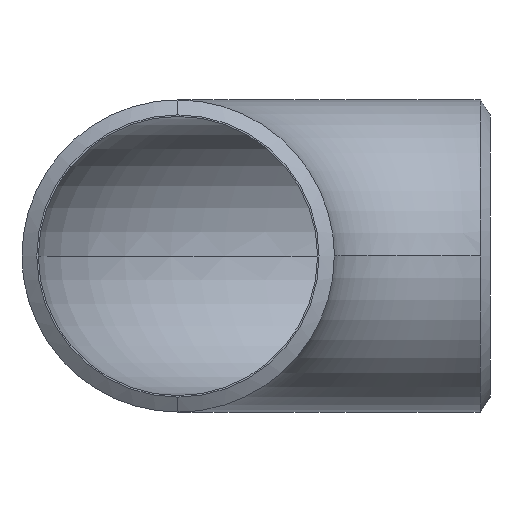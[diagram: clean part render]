
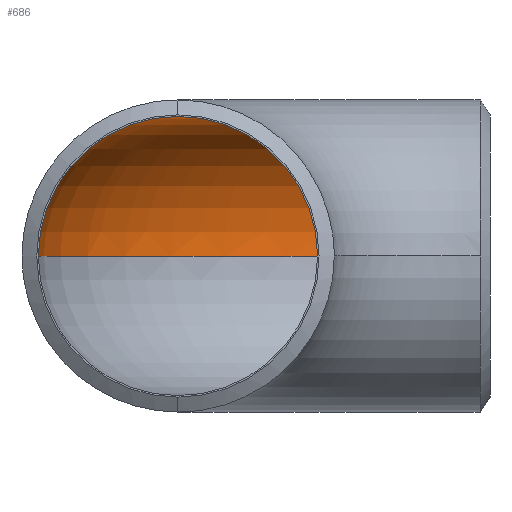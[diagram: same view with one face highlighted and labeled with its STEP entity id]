
A CAD part, front view. The second image highlights one B-rep face of the part: STEP entity #686.
In plain terms, the highlighted toroidal (fillet/blend) face has major radius 406.4 mm and minor radius 181.8 mm.
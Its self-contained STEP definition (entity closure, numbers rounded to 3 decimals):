
#32 = EDGE_CURVE ( 'NONE', #710, #707, #214, .T. ) ;
#34 = TOROIDAL_SURFACE ( 'NONE', #468, 406.4, 181.8 ) ;
#47 = ORIENTED_EDGE ( 'NONE', *, *, #210, .F. ) ;
#80 = DIRECTION ( 'NONE',  ( -1., 0., 0. ) ) ;
#84 = EDGE_CURVE ( 'NONE', #707, #153, #560, .T. ) ;
#86 = DIRECTION ( 'NONE',  ( 0., 0., -1. ) ) ;
#118 = CARTESIAN_POINT ( 'NONE',  ( 406.4, 406.4, 0. ) ) ;
#139 = CARTESIAN_POINT ( 'NONE',  ( 406.4, 224.6, 0. ) ) ;
#148 = CIRCLE ( 'NONE', #552, 224.6 ) ;
#153 = VERTEX_POINT ( 'NONE', #320 ) ;
#155 = AXIS2_PLACEMENT_3D ( 'NONE', #447, #235, #613 ) ;
#174 = CARTESIAN_POINT ( 'NONE',  ( -181.8, 0., 0. ) ) ;
#203 = ORIENTED_EDGE ( 'NONE', *, *, #32, .T. ) ;
#210 = EDGE_CURVE ( 'NONE', #314, #153, #635, .T. ) ;
#214 = CIRCLE ( 'NONE', #155, 181.8 ) ;
#215 = EDGE_LOOP ( 'NONE', ( #203, #665, #47, #542 ) ) ;
#220 = DIRECTION ( 'NONE',  ( -1., 0., 0. ) ) ;
#235 = DIRECTION ( 'NONE',  ( 0., -1., 0. ) ) ;
#262 = DIRECTION ( 'NONE',  ( 0., 0., -1. ) ) ;
#269 = EDGE_CURVE ( 'NONE', #710, #314, #148, .T. ) ;
#313 = CARTESIAN_POINT ( 'NONE',  ( 406.4, 0., 0. ) ) ;
#314 = VERTEX_POINT ( 'NONE', #139 ) ;
#320 = CARTESIAN_POINT ( 'NONE',  ( 406.4, 588.2, 0. ) ) ;
#331 = DIRECTION ( 'NONE',  ( 0., 0., 1. ) ) ;
#350 = DIRECTION ( 'NONE',  ( 0., 0., -1. ) ) ;
#357 = CARTESIAN_POINT ( 'NONE',  ( 181.8, 0., 0. ) ) ;
#365 = CARTESIAN_POINT ( 'NONE',  ( 406.4, 0., 0. ) ) ;
#447 = CARTESIAN_POINT ( 'NONE',  ( 0., 0., 0. ) ) ;
#468 = AXIS2_PLACEMENT_3D ( 'NONE', #365, #86, #80 ) ;
#527 = AXIS2_PLACEMENT_3D ( 'NONE', #313, #262, #533 ) ;
#533 = DIRECTION ( 'NONE',  ( -1., 0., 0. ) ) ;
#542 = ORIENTED_EDGE ( 'NONE', *, *, #269, .F. ) ;
#552 = AXIS2_PLACEMENT_3D ( 'NONE', #574, #350, #623 ) ;
#560 = CIRCLE ( 'NONE', #527, 588.2 ) ;
#574 = CARTESIAN_POINT ( 'NONE',  ( 406.4, 0., 0. ) ) ;
#587 = FACE_OUTER_BOUND ( 'NONE', #215, .T. ) ;
#613 = DIRECTION ( 'NONE',  ( 0., 0., 1. ) ) ;
#623 = DIRECTION ( 'NONE',  ( -1., 0., 0. ) ) ;
#635 = CIRCLE ( 'NONE', #666, 181.8 ) ;
#665 = ORIENTED_EDGE ( 'NONE', *, *, #84, .T. ) ;
#666 = AXIS2_PLACEMENT_3D ( 'NONE', #118, #220, #331 ) ;
#686 = ADVANCED_FACE ( 'NONE', ( #587 ), #34, .F. ) ;
#707 = VERTEX_POINT ( 'NONE', #174 ) ;
#710 = VERTEX_POINT ( 'NONE', #357 ) ;
